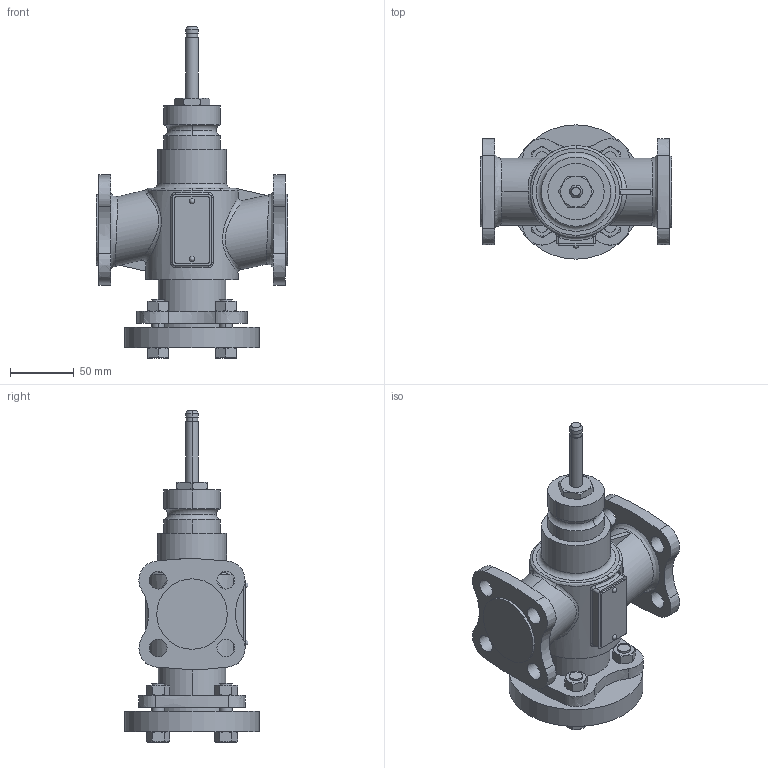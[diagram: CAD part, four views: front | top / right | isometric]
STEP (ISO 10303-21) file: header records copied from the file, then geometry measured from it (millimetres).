
FILE_DESCRIPTION(/* description */ ('Step214'),/* implementation_level */ '2;1');
FILE_NAME(/* name */ 'VVF53 DN20.stp',/* time_stamp */ '2015-11-10T13:41:03+01:00',/* author */ (''),/* organization */ ('Siemens'),/* preprocessor_version */ 'ST-DEVELOPER v15',/* originating_system */ 'SIEMENS PLM Software NX 8.5',/* authorisation */ 'for Duktil only');
FILE_SCHEMA (('AUTOMOTIVE_DESIGN { 1 0 10303 214 3 1 1 1 }'));
Length unit declared in the file: millimetre
Products named in the file (1): Volc19F47525lfg7
Bounding box: 150 x 105 x 259.51 mm (x, y, z)
Volume: 950704.7 mm3; surface area: 116306.6 mm2
Topology: 1 solids, 1 shells, 260 faces, 650 edges, 430 vertices
Faces by surface type: plane 112, cylinder 64, cone 38, extrusion 24, torus 10, bspline 10, sphere 2
Full cylindrical faces by diameter (mm): 14 x16, 54 x1, 55 x2, 105 x1
Entity records: 10546 total; most frequent: CARTESIAN_POINT 4897, ORIENTED_EDGE 1222, DIRECTION 1050, EDGE_CURVE 611, VERTEX_POINT 417, AXIS2_PLACEMENT_3D 416, EDGE_LOOP 340, ADVANCED_FACE 260
